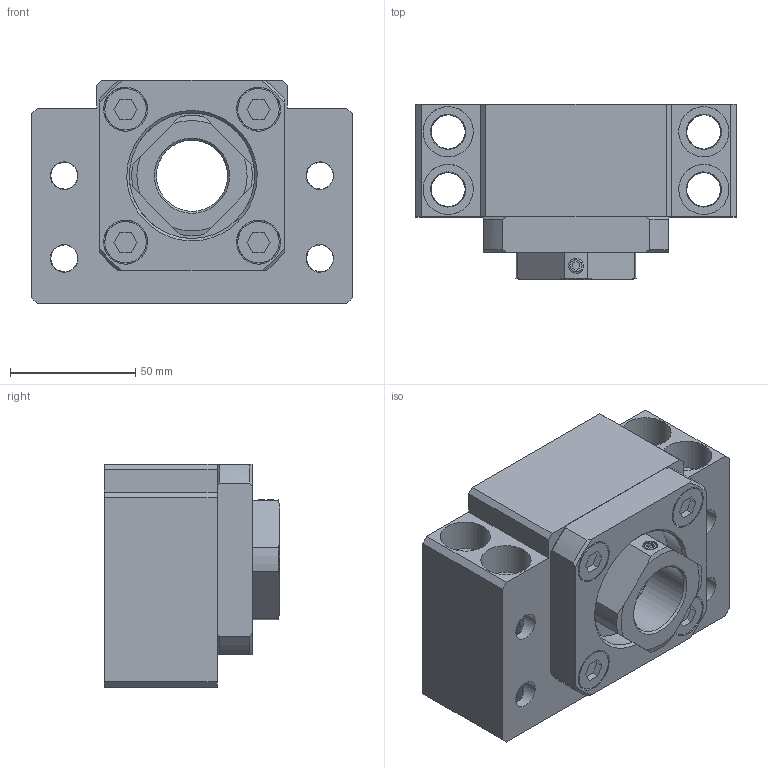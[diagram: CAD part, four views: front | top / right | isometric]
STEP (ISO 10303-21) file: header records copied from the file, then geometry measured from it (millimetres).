
FILE_DESCRIPTION( ('This file contains a STEP AP42 implementation' ,'as created by ZW3D STEP Interface translator.') ,'2;1' );
FILE_NAME( '4AF2E99F-2F94-30F2-64D7-837FB0CA4228.stp' ,'18 315.171456', (''), ('ZWCAD Software Co.'), 'Version 1.0', 'ZW3D to STEP translator', '' );
FILE_SCHEMA( ('CONFIG_CONTROL_DESIGN') );
Length unit declared in the file: millimetre
Products named in the file (4): 0; FSFBK-30; _BK 30collar; _BK 30
Assembly tree (2 placements, depth 2):
  0
  FSFBK-30
    _BK 30collar
    _BK 30
Bounding box: 128 x 70 x 89 mm (x, y, z)
Volume: 461719.8 mm3; surface area: 89944.1 mm2
Topology: 2 solids, 3 shells, 161 faces, 410 edges, 274 vertices
Faces by surface type: bspline 161
Entity records: 6425 total; most frequent: CARTESIAN_POINT 3680, ORIENTED_EDGE 820, EDGE_CURVE 410, B_SPLINE_CURVE_WITH_KNOTS 296, VERTEX_POINT 274, EDGE_LOOP 216, FACE_OUTER_BOUND 161, ADVANCED_FACE 161
